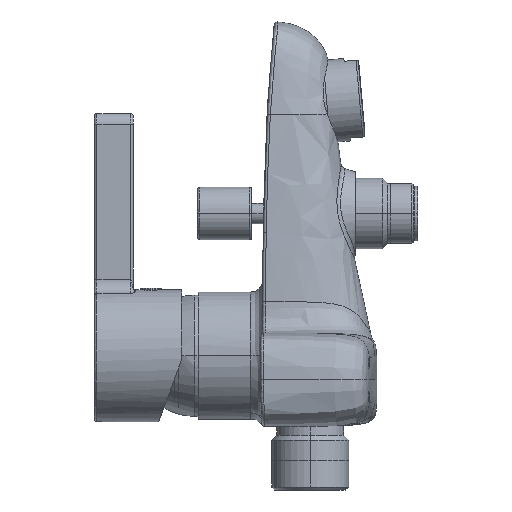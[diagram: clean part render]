
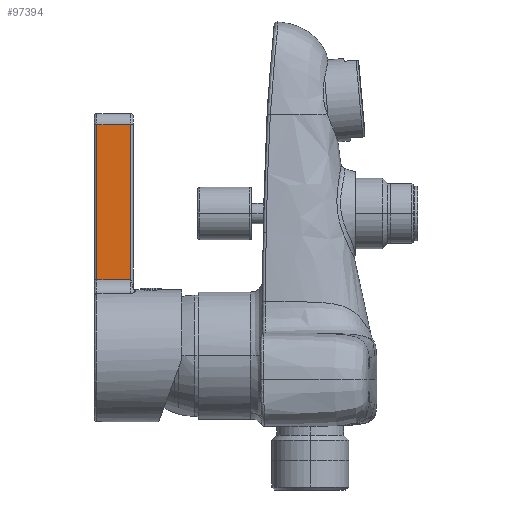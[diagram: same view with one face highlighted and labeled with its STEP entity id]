
A CAD part, left-side view. The second image highlights one B-rep face of the part: STEP entity #97394.
In plain terms, the highlighted planar face has unit normal (-1, 0, 0) as drawn and (0, 0, 1) by its records, which use the part's own axes.
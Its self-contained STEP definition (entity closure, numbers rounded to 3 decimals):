
#92503=DIRECTION('',(0.,1.,0.));
#92504=VECTOR('',#92503,11.4);
#92505=CARTESIAN_POINT('',(77.95,17.3,3.8));
#92506=LINE('',#92505,#92504);
#92665=DIRECTION('',(-1.,0.,0.));
#92666=VECTOR('',#92665,52.34);
#92667=CARTESIAN_POINT('',(77.95,28.7,3.8));
#92668=LINE('',#92667,#92666);
#92751=DIRECTION('',(1.,0.,0.));
#92752=VECTOR('',#92751,52.34);
#92753=CARTESIAN_POINT('',(25.61,17.3,3.8));
#92754=LINE('',#92753,#92752);
#92880=DIRECTION('',(0.,-1.,0.));
#92881=VECTOR('',#92880,11.4);
#92882=CARTESIAN_POINT('',(25.61,28.7,3.8));
#92883=LINE('',#92882,#92881);
#93931=CARTESIAN_POINT('',(77.95,17.3,3.8));
#93933=VERTEX_POINT('',#93931);
#93936=CARTESIAN_POINT('',(77.95,28.7,3.8));
#93938=VERTEX_POINT('',#93936);
#93961=CARTESIAN_POINT('',(25.61,28.7,3.8));
#93962=VERTEX_POINT('',#93961);
#93963=CARTESIAN_POINT('',(25.61,17.3,3.8));
#93964=VERTEX_POINT('',#93963);
#97381=CARTESIAN_POINT('',(81.75,29.5,3.8));
#97382=DIRECTION('',(0.,0.,-1.));
#97383=DIRECTION('',(1.,0.,0.));
#97384=AXIS2_PLACEMENT_3D('',#97381,#97382,#97383);
#97385=PLANE('',#97384);
#97386=ORIENTED_EDGE('',*,*,#97188,.F.);
#97388=ORIENTED_EDGE('',*,*,#97387,.F.);
#97390=ORIENTED_EDGE('',*,*,#97389,.F.);
#97391=ORIENTED_EDGE('',*,*,#97367,.F.);
#97392=EDGE_LOOP('',(#97386,#97388,#97390,#97391));
#97393=FACE_OUTER_BOUND('',#97392,.F.);
#97394=ADVANCED_FACE('',(#97393),#97385,.F.);
#97188=EDGE_CURVE('',#93933,#93938,#92506,.T.);
#97367=EDGE_CURVE('',#93938,#93962,#92668,.T.);
#97387=EDGE_CURVE('',#93964,#93933,#92754,.T.);
#97389=EDGE_CURVE('',#93962,#93964,#92883,.T.);
